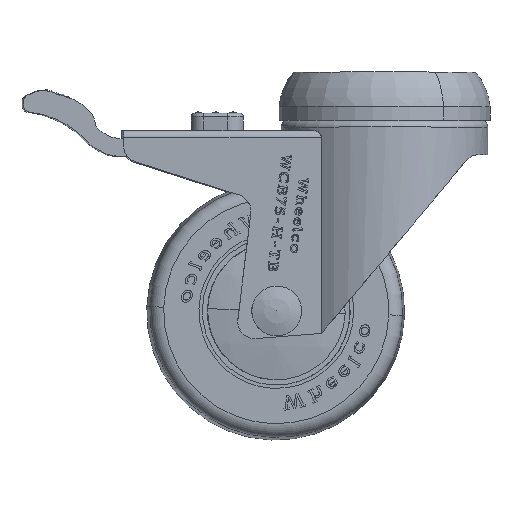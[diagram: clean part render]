
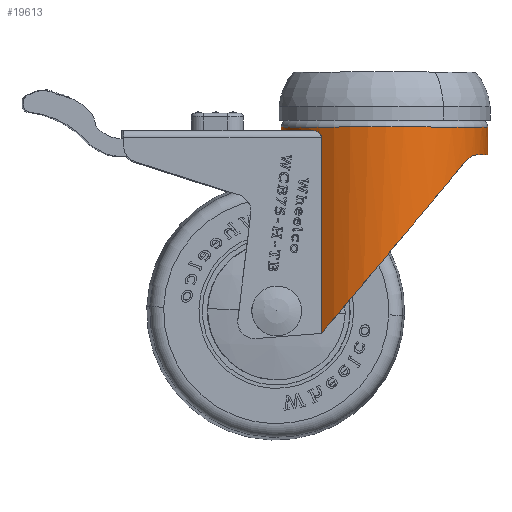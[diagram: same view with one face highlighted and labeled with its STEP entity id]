
A CAD part, top view. The second image highlights one B-rep face of the part: STEP entity #19613.
In plain terms, the highlighted cylindrical face has radius 30 mm (diameter 60 mm), a partial arc.
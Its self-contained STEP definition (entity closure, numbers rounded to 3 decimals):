
#805 = VERTEX_POINT ( 'NONE', #42523 ) ;
#833 = B_SPLINE_CURVE_WITH_KNOTS ( 'NONE', 3,
 ( #12972, #41437, #4315, #33271, #17016, #41164, #45489, #49307, #37881, #8907, #42238, #21368 ),
 .UNSPECIFIED., .F., .F.,
 ( 4, 2, 2, 2, 2, 4 ),
 ( 0., 0.001, 0.002, 0.003, 0.003, 0.004 ),
 .UNSPECIFIED. ) ;
#2075 = CARTESIAN_POINT ( 'NONE',  ( -23.5, 66., 18.648 ) ) ;
#2619 = DIRECTION ( 'NONE',  ( 0., -1., 0. ) ) ;
#2705 = CARTESIAN_POINT ( 'NONE',  ( 0., 2., -30. ) ) ;
#4315 = CARTESIAN_POINT ( 'NONE',  ( -21.956, 3.039, 20.446 ) ) ;
#5222 = CARTESIAN_POINT ( 'NONE',  ( -34.424, 45.599, 4.881 ) ) ;
#5672 = VERTEX_POINT ( 'NONE', #45307 ) ;
#6158 = DIRECTION ( 'NONE',  ( 0., 1., 0. ) ) ;
#6399 = ORIENTED_EDGE ( 'NONE', *, *, #12158, .F. ) ;
#6999 = CARTESIAN_POINT ( 'NONE',  ( -15.205, 10.206, -25.869 ) ) ;
#7077 = EDGE_CURVE ( 'NONE', #50727, #33653, #833, .T. ) ;
#7113 = CARTESIAN_POINT ( 'NONE',  ( -23.5, 5., 18.648 ) ) ;
#7253 = CARTESIAN_POINT ( 'NONE',  ( -16.789, 10.647, -24.864 ) ) ;
#8907 = CARTESIAN_POINT ( 'NONE',  ( -23.478, 4.666, 18.675 ) ) ;
#12158 = EDGE_CURVE ( 'NONE', #33801, #805, #35121, .T. ) ;
#12244 = DIRECTION ( 'NONE',  ( 0., 1., 0. ) ) ;
#12972 = CARTESIAN_POINT ( 'NONE',  ( -21.5, 3., 20.922 ) ) ;
#13970 = ORIENTED_EDGE ( 'NONE', *, *, #16312, .F. ) ;
#14556 = ORIENTED_EDGE ( 'NONE', *, *, #22945, .F. ) ;
#14593 = CARTESIAN_POINT ( 'NONE',  ( -17.044, 10.749, -24.69 ) ) ;
#16312 = EDGE_CURVE ( 'NONE', #805, #44217, #21220, .T. ) ;
#16586 = EDGE_CURVE ( 'NONE', #5672, #33653, #39187, .T. ) ;
#17016 = CARTESIAN_POINT ( 'NONE',  ( -22.596, 3.309, 19.736 ) ) ;
#17403 = CARTESIAN_POINT ( 'NONE',  ( -18.646, 11.785, -23.501 ) ) ;
#18748 = EDGE_CURVE ( 'NONE', #33801, #20965, #20205, .T. ) ;
#18861 = DIRECTION ( 'NONE',  ( 0., 0., -1. ) ) ;
#19192 = EDGE_CURVE ( 'NONE', #44217, #5672, #28095, .T. ) ;
#19228 = AXIS2_PLACEMENT_3D ( 'NONE', #21171, #12244, #49100 ) ;
#19613 = ADVANCED_FACE ( 'NONE', ( #34856 ), #22954, .T. ) ;
#20205 = LINE ( 'NONE', #40531, #51863 ) ;
#20965 = VERTEX_POINT ( 'NONE', #2705 ) ;
#21002 = DIRECTION ( 'NONE',  ( 0., 1., 0. ) ) ;
#21171 = CARTESIAN_POINT ( 'NONE',  ( 0., 2., 0. ) ) ;
#21220 = B_SPLINE_CURVE_WITH_KNOTS ( 'NONE', 3,
 ( #44387, #31633, #44124, #48196, #6999, #31379, #51475, #7253, #14593, #23796, #23008, #35967 ),
 .UNSPECIFIED., .F., .F.,
 ( 4, 2, 2, 2, 2, 4 ),
 ( 0., 0.002, 0.004, 0.005, 0.006, 0.008 ),
 .UNSPECIFIED. ) ;
#21368 = CARTESIAN_POINT ( 'NONE',  ( -23.5, 5., 18.648 ) ) ;
#21584 = CARTESIAN_POINT ( 'NONE',  ( -18.646, 11.785, -23.501 ) ) ;
#21726 = CARTESIAN_POINT ( 'NONE',  ( 0., 10., -30. ) ) ;
#22945 = EDGE_CURVE ( 'NONE', #24568, #33674, #31084, .T. ) ;
#22954 = CYLINDRICAL_SURFACE ( 'NONE', #47437, 30. ) ;
#23008 = CARTESIAN_POINT ( 'NONE',  ( -18.235, 11.397, -23.828 ) ) ;
#23796 = CARTESIAN_POINT ( 'NONE',  ( -17.779, 11.102, -24.171 ) ) ;
#24568 = VERTEX_POINT ( 'NONE', #28699 ) ;
#25539 = CARTESIAN_POINT ( 'NONE',  ( -32.414, 24.799, -12.578 ) ) ;
#25845 = ORIENTED_EDGE ( 'NONE', *, *, #7077, .T. ) ;
#26295 = ORIENTED_EDGE ( 'NONE', *, *, #16586, .F. ) ;
#27001 = CIRCLE ( 'NONE', #19228, 30. ) ;
#28095 =( BOUNDED_CURVE ( )  B_SPLINE_CURVE ( 3, ( #17403, #25539, #5222, #29064 ),
 .UNSPECIFIED., .F., .T. ) 
 B_SPLINE_CURVE_WITH_KNOTS ( ( 4, 4 ),
 ( 0.671, 2.242 ),
 .UNSPECIFIED. ) 
 CURVE ( )  GEOMETRIC_REPRESENTATION_ITEM ( )  RATIONAL_B_SPLINE_CURVE ( ( 1., 0.805, 0.805, 1. ) ) 
 REPRESENTATION_ITEM ( '' )  );
#28699 = CARTESIAN_POINT ( 'NONE',  ( 0., 3., 30. ) ) ;
#29064 = CARTESIAN_POINT ( 'NONE',  ( -23.5, 62., 18.648 ) ) ;
#29212 = VECTOR ( 'NONE', #51937, 1000. ) ;
#29477 = EDGE_CURVE ( 'NONE', #20965, #33674, #27001, .T. ) ;
#30958 = AXIS2_PLACEMENT_3D ( 'NONE', #43802, #6158, #35394 ) ;
#31084 = LINE ( 'NONE', #39488, #35553 ) ;
#31256 = ORIENTED_EDGE ( 'NONE', *, *, #18748, .T. ) ;
#31379 = CARTESIAN_POINT ( 'NONE',  ( -16.006, 10.395, -25.375 ) ) ;
#31633 = CARTESIAN_POINT ( 'NONE',  ( -12.958, 10., -27.065 ) ) ;
#32019 = CARTESIAN_POINT ( 'NONE',  ( 0., 2., 30. ) ) ;
#32687 = CIRCLE ( 'NONE', #30958, 30. ) ;
#33271 = CARTESIAN_POINT ( 'NONE',  ( -22.387, 3.193, 19.973 ) ) ;
#33374 = AXIS2_PLACEMENT_3D ( 'NONE', #48923, #21002, #45128 ) ;
#33653 = VERTEX_POINT ( 'NONE', #7113 ) ;
#33674 = VERTEX_POINT ( 'NONE', #32019 ) ;
#33801 = VERTEX_POINT ( 'NONE', #21726 ) ;
#34856 = FACE_OUTER_BOUND ( 'NONE', #53603, .T. ) ;
#35121 = CIRCLE ( 'NONE', #33374, 30. ) ;
#35394 = DIRECTION ( 'NONE',  ( 0., 0., 1. ) ) ;
#35437 = ORIENTED_EDGE ( 'NONE', *, *, #51396, .F. ) ;
#35553 = VECTOR ( 'NONE', #47640, 1000. ) ;
#35967 = CARTESIAN_POINT ( 'NONE',  ( -18.646, 11.785, -23.501 ) ) ;
#37323 = ORIENTED_EDGE ( 'NONE', *, *, #19192, .F. ) ;
#37881 = CARTESIAN_POINT ( 'NONE',  ( -23.401, 4.358, 18.773 ) ) ;
#39187 = LINE ( 'NONE', #2075, #29212 ) ;
#39488 = CARTESIAN_POINT ( 'NONE',  ( 0., 66., 30. ) ) ;
#40531 = CARTESIAN_POINT ( 'NONE',  ( 0., 66., -30. ) ) ;
#41164 = CARTESIAN_POINT ( 'NONE',  ( -22.973, 3.625, 19.296 ) ) ;
#41437 = CARTESIAN_POINT ( 'NONE',  ( -21.732, 3., 20.684 ) ) ;
#42238 = CARTESIAN_POINT ( 'NONE',  ( -23.5, 4.832, 18.648 ) ) ;
#42523 = CARTESIAN_POINT ( 'NONE',  ( -12.37, 10., -27.331 ) ) ;
#43802 = CARTESIAN_POINT ( 'NONE',  ( 0., 3., 0. ) ) ;
#44124 = CARTESIAN_POINT ( 'NONE',  ( -13.533, 10.021, -26.782 ) ) ;
#44217 = VERTEX_POINT ( 'NONE', #21584 ) ;
#44387 = CARTESIAN_POINT ( 'NONE',  ( -12.37, 10., -27.331 ) ) ;
#45128 = DIRECTION ( 'NONE',  ( 0., 0., 1. ) ) ;
#45307 = CARTESIAN_POINT ( 'NONE',  ( -23.5, 62., 18.648 ) ) ;
#45489 = CARTESIAN_POINT ( 'NONE',  ( -23.146, 3.828, 19.087 ) ) ;
#47437 = AXIS2_PLACEMENT_3D ( 'NONE', #51681, #2619, #18861 ) ;
#47640 = DIRECTION ( 'NONE',  ( 0., -1., 0. ) ) ;
#48196 = CARTESIAN_POINT ( 'NONE',  ( -14.656, 10.124, -26.184 ) ) ;
#48923 = CARTESIAN_POINT ( 'NONE',  ( 0., 10., 0. ) ) ;
#49100 = DIRECTION ( 'NONE',  ( 0., 0., 1. ) ) ;
#49210 = DIRECTION ( 'NONE',  ( 0., -1., 0. ) ) ;
#49307 = CARTESIAN_POINT ( 'NONE',  ( -23.345, 4.215, 18.842 ) ) ;
#50727 = VERTEX_POINT ( 'NONE', #51550 ) ;
#51396 = EDGE_CURVE ( 'NONE', #50727, #24568, #32687, .T. ) ;
#51475 = CARTESIAN_POINT ( 'NONE',  ( -16.27, 10.469, -25.207 ) ) ;
#51550 = CARTESIAN_POINT ( 'NONE',  ( -21.5, 3., 20.922 ) ) ;
#51681 = CARTESIAN_POINT ( 'NONE',  ( 0., 66., 0. ) ) ;
#51863 = VECTOR ( 'NONE', #49210, 1000. ) ;
#51937 = DIRECTION ( 'NONE',  ( 0., -1., 0. ) ) ;
#53046 = ORIENTED_EDGE ( 'NONE', *, *, #29477, .T. ) ;
#53603 = EDGE_LOOP ( 'NONE', ( #14556, #35437, #25845, #26295, #37323, #13970, #6399, #31256, #53046 ) ) ;
